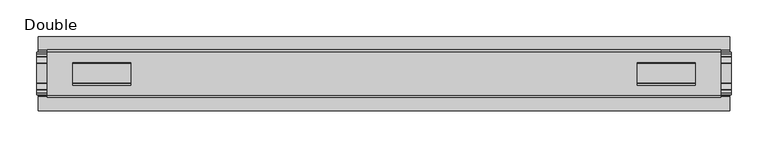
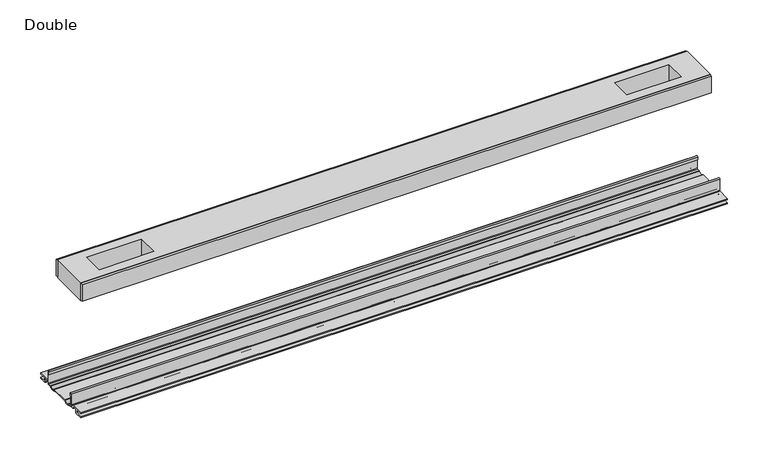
"""IFC4 building model written with IfcOpenShell, lengths in millimetres: proxy geometry, Frame-Teknion-FHCRA-Horizontal_Rail-R2022 : Double."""

from ifc_helpers import new_model, si_unit, point, frame, frame_2d, origin, place, context, project, spatial, polyline, circle_curve, trimmed, segment, composite_curve, outline, extrude, source, transform, mapped, element, save


def double_2ac2d2b6(model_context):
    return source(origin(), model_context, "Body", "SweptSolid", [
        extrude(outline(polyline([(457.2161097, -29.0068005), (457.2161097, -32.1817997), (-457.2161097, -32.1817997), (-457.2161097, -29.0068005), (457.2161097, -29.0068005)])), frame((0.0, 0.0, 149.8401622), z_axis=(0.0, 0.0, 1.0), x_axis=(1.0, 0.0, 0.0)), (0.0, 0.0, 1.0), 25.3999939),
        extrude(outline(polyline([(457.2161097, 32.1817997), (457.2161097, 29.0068005), (-457.2161097, 29.0068005), (-457.2161097, 32.1817997), (457.2161097, 32.1817997)])), frame((0.0, 0.0, 149.8401622), z_axis=(0.0, 0.0, 1.0), x_axis=(1.0, 0.0, 0.0)), (0.0, 0.0, 1.0), 25.3999939),
        extrude(outline(polyline([(457.2161097, 29.0068005), (457.2161097, -29.0068005), (-457.2161097, -29.0068005), (-457.2161097, 29.0068005), (457.2161097, 29.0068005)]), holes=[polyline([(422.7990971, 15.1130038), (343.7542853, 15.1130038), (343.7542853, -15.875003), (422.7990971, -15.875003), (422.7990971, 15.1130038)]), polyline([(-422.7990971, 15.1130038), (-422.7990971, -15.875003), (-343.7542853, -15.875003), (-343.7542853, 15.1130038), (-422.7990971, 15.1130038)])]), frame((0.0, 0.0, 148.4185847), z_axis=(0.0, 0.0, 1.0), x_axis=(1.0, 0.0, 0.0)), (0.0, 0.0, 1.0), 27.9999988),
        extrude(outline(composite_curve([segment(polyline([(-28.8162961, -7.7516037), (-28.8162961, 9.8607558)]), True, "CONTINUOUS"), segment(trimmed(circle_curve(frame_2d((-27.5970982, 9.8607558)), 1.2191979), [point((-28.8162961, 9.8607558))], [point((-26.3779003, 9.8607558))], False, "CARTESIAN"), True, "CONTINUOUS"), segment(polyline([(-26.3779003, 9.8607558), (-26.3779003, 5.9999563), (-27.6580769, 5.9999563), (-27.6580769, -7.7516037)]), True, "CONTINUOUS"), segment(trimmed(circle_curve(frame_2d((-26.6420561, -7.7516037)), 1.0160208), [point((-27.6580769, -7.7516037))], [point((-26.6485732, -8.7676036))], True, "CARTESIAN"), True, "CONTINUOUS"), segment(polyline([(-26.6485732, -8.7676036), (-22.7056226, -8.7676036), (-21.7922609, -8.968753)]), True, "CONTINUOUS"), segment(trimmed(circle_curve(frame_2d((-17.7673021, -6.1259382)), 4.9276657), [point((-21.7922609, -8.968753))], [point((-13.7423434, -8.968753))], True, "CARTESIAN"), True, "CONTINUOUS"), segment(polyline([(-13.7423434, -8.968753), (-12.8289726, -8.7676036), (13.2099722, -8.7676036), (14.123343, -8.968753)]), True, "CONTINUOUS"), segment(trimmed(circle_curve(frame_2d((18.1483018, -6.1259382)), 4.9276657), [point((14.123343, -8.968753))], [point((22.1732605, -8.968753))], True, "CARTESIAN"), True, "CONTINUOUS"), segment(polyline([(22.1732605, -8.968753), (23.0866222, -8.7676036), (27.0295728, -8.7676036)]), True, "CONTINUOUS"), segment(trimmed(circle_curve(frame_2d((27.0230557, -7.7516037)), 1.0160208), [point((27.0295728, -8.7676036))], [point((28.0390765, -7.7516037))], True, "CARTESIAN"), True, "CONTINUOUS"), segment(polyline([(28.0390765, -7.7516037), (28.0390765, 5.9999563), (26.7588999, 5.9999563), (26.7588999, 9.8607558)]), True, "CONTINUOUS"), segment(trimmed(circle_curve(frame_2d((27.9780978, 9.8607558)), 1.2191979), [point((26.7588999, 9.8607558))], [point((29.1972958, 9.8607558))], False, "CARTESIAN"), True, "CONTINUOUS"), segment(polyline([(29.1972958, 9.8607558), (29.1972958, -7.7516037)]), True, "CONTINUOUS"), segment(trimmed(circle_curve(frame_2d((27.0230557, -7.7516037)), 2.17424), [point((29.1972958, -7.7516037))], [point((27.0230557, -9.9258438))], False, "CARTESIAN"), True, "CONTINUOUS"), segment(polyline([(27.0230557, -9.9258438), (22.732069, -9.9258438)]), True, "CONTINUOUS"), segment(trimmed(circle_curve(frame_2d((18.1516545, -6.4800016)), 5.7318431), [point((22.732069, -9.9258438))], [point((13.57124, -9.9258438))], False, "CARTESIAN"), True, "CONTINUOUS"), segment(polyline([(13.57124, -9.9258438), (-13.1902404, -9.9258438)]), True, "CONTINUOUS"), segment(trimmed(circle_curve(frame_2d((-17.7706549, -6.4800016)), 5.7318431), [point((-13.1902404, -9.9258438))], [point((-22.3510694, -9.9258438))], False, "CARTESIAN"), True, "CONTINUOUS"), segment(polyline([(-22.3510694, -9.9258438), (-26.6420561, -9.9258438)]), True, "CONTINUOUS"), segment(trimmed(circle_curve(frame_2d((-26.6420561, -7.7516037)), 2.17424), [point((-26.6420561, -9.9258438))], [point((-28.8162961, -7.7516037))], False, "CARTESIAN"), True, "CONTINUOUS")], self_intersect=False)), frame((-471.2750006, 0.0, 0.0), z_axis=(1.0, 0.0, 0.0), x_axis=(0.0, 1.0, 0.0)), (0.0, 0.0, 1.0), 942.5500012),
        extrude(outline(composite_curve([segment(polyline([(-50.2668422, -13.9898438), (-50.2240211, -12.3388438), (-39.7827507, -12.3388438), (-39.7827507, -7.766844), (-50.2240211, -7.766844), (-50.2668422, -6.1158439), (-31.1784975, -6.1158439)]), True, "CONTINUOUS"), segment(trimmed(circle_curve(frame_2d((-31.1784975, -7.6398436)), 1.5239997), [point((-31.1784975, -6.1158439))], [point((-29.6544978, -7.6398436))], False, "CARTESIAN"), True, "CONTINUOUS"), segment(polyline([(-29.6544978, -7.6398436), (-29.6544978, -9.9258438), (-23.1058344, -9.9258438)]), True, "CONTINUOUS"), segment(trimmed(circle_curve(frame_2d((-17.7673021, -5.2268471)), 7.1119966), [point((-23.1058344, -9.9258438))], [point((-12.4287699, -9.9258438))], True, "CARTESIAN"), True, "CONTINUOUS"), segment(polyline([(-12.4287699, -9.9258438), (12.8097695, -9.9258438)]), True, "CONTINUOUS"), segment(trimmed(circle_curve(frame_2d((18.1483018, -5.2268471)), 7.1119966), [point((12.8097695, -9.9258438))], [point((23.486834, -9.9258438))], True, "CARTESIAN"), True, "CONTINUOUS"), segment(polyline([(23.486834, -9.9258438), (30.0354975, -9.9258438), (30.0354975, -7.7656583)]), True, "CONTINUOUS"), segment(trimmed(circle_curve(frame_2d((31.6864982, -7.7656583)), 1.6510007), [point((30.0354975, -7.7656583))], [point((31.6239218, -6.1158439))], False, "CARTESIAN"), True, "CONTINUOUS"), segment(polyline([(31.6239218, -6.1158439), (50.00625, -6.1158439), (50.00625, -7.766844), (40.1637503, -7.766844), (40.1637503, -12.3388438), (50.00625, -12.3388438), (50.00625, -13.9898438), (40.0367518, -13.9898438)]), True, "CONTINUOUS"), segment(trimmed(circle_curve(frame_2d((40.0367518, -12.4658438)), 1.524), [point((40.0367518, -13.9898438))], [point((38.5127519, -12.4658438))], False, "CARTESIAN"), True, "CONTINUOUS"), segment(polyline([(38.5127519, -12.4658438), (38.5127519, -7.766844), (31.686497, -7.766844), (31.686497, -10.0528438)]), True, "CONTINUOUS"), segment(trimmed(circle_curve(frame_2d((30.1624971, -10.0528438)), 1.524), [point((31.686497, -10.0528438))], [point((30.1624971, -11.5768438))], False, "CARTESIAN"), True, "CONTINUOUS"), segment(polyline([(30.1624971, -11.5768438), (23.6563549, -11.5768438)]), True, "CONTINUOUS"), segment(trimmed(circle_curve(frame_2d((18.1483018, -6.4968436)), 7.4930002), [point((23.6563549, -11.5768438))], [point((12.8904968, -11.8354331))], False, "CARTESIAN"), True, "CONTINUOUS"), segment(polyline([(12.8904968, -11.8354331), (-12.5094972, -11.8354331)]), True, "CONTINUOUS"), segment(trimmed(circle_curve(frame_2d((-17.7673021, -6.4968436)), 7.4930002), [point((-12.5094972, -11.8354331))], [point((-23.2753553, -11.5768438))], False, "CARTESIAN"), True, "CONTINUOUS"), segment(polyline([(-23.2753553, -11.5768438), (-29.7814974, -11.5768438)]), True, "CONTINUOUS"), segment(trimmed(circle_curve(frame_2d((-29.7814974, -10.0528438)), 1.524), [point((-29.7814974, -11.5768438))], [point((-31.3054974, -10.0528438))], False, "CARTESIAN"), True, "CONTINUOUS"), segment(polyline([(-31.3054974, -10.0528438), (-31.3054974, -7.766844), (-38.1317522, -7.766844), (-38.1317522, -12.4658438)]), True, "CONTINUOUS"), segment(trimmed(circle_curve(frame_2d((-39.6557522, -12.4658438)), 1.524), [point((-38.1317522, -12.4658438))], [point((-39.6557522, -13.9898438))], False, "CARTESIAN"), True, "CONTINUOUS"), segment(polyline([(-39.6557522, -13.9898438), (-50.2668422, -13.9898438)]), True, "CONTINUOUS")], self_intersect=False)), frame((-469.6240006, 0.0, 0.0), z_axis=(1.0, 0.0, 0.0), x_axis=(0.0, 1.0, 0.0)), (0.0, 0.0, 1.0), 939.2480012),
    ])


if __name__ == "__main__":
    model = new_model("IFC4")
    model_context = context("Model", 3, world=origin())
    ifc_project = project(units=[si_unit("LENGTHUNIT", "METRE", prefix="MILLI")], contexts=[model_context])
    site = spatial("IfcSite", under=ifc_project)
    building = spatial("IfcBuilding", under=site)
    placement = place(None, origin())
    double_shape = double_2ac2d2b6(model_context)
    element("IfcBuildingElementProxy", 1, Name="Frame-Teknion-FHCRA-Horizontal_Rail-R2022 : Double", ObjectType="Frame-Teknion-FHCRA-Horizontal_Rail-R2022 : Double", at=placement, inside=building, context=model_context, shape_type="MappedRepresentation", body=[
        mapped(double_shape, transform((0.0, 0.0, 0.0), x_axis=(1.0, 0.0, 0.0), y_axis=(0.0, 1.0, 0.0), z_axis=(0.0, 0.0, 1.0))),
    ])
    save(model, "model.ifc")
